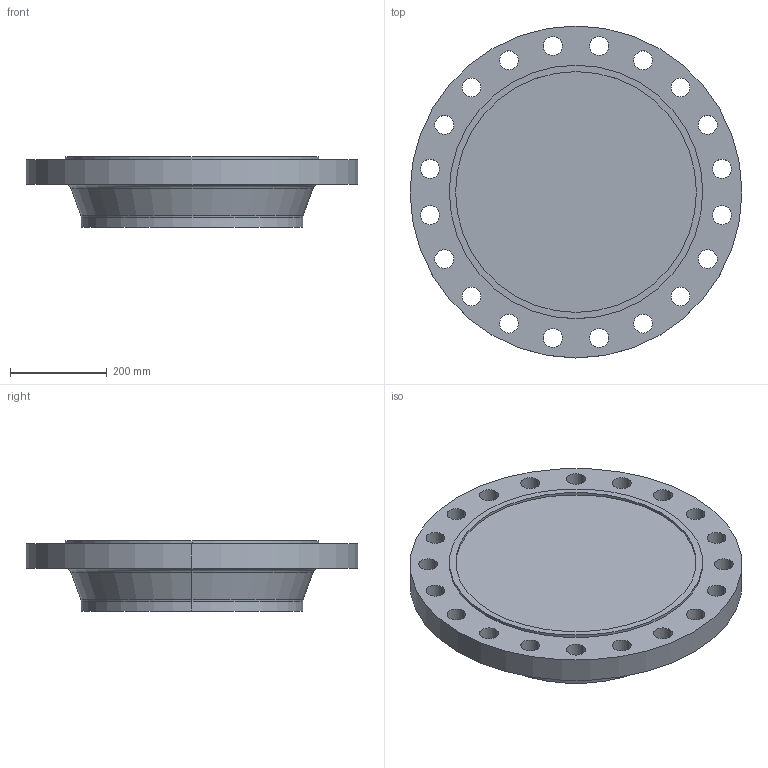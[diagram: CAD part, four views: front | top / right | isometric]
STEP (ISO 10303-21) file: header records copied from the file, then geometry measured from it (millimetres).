
FILE_DESCRIPTION (( 'STEP AP214' ), '1' );
FILE_NAME ('PN40 DN450 Type 21(ii) - Type C Face.STEP', '2018-12-29T04:51:08', ( '' ), ( '' ), 'SwSTEP 2.0', 'SolidWorks 2019', '' );
FILE_SCHEMA (( 'AUTOMOTIVE_DESIGN' ));
Length unit declared in the file: millimetre
Products named in the file (1): PN40 DN450 Type 21(ii) - Type C Face
Bounding box: 685 x 685 x 145 mm (x, y, z)
Volume: 33499132.1 mm3; surface area: 1041854.8 mm2
Topology: 1 solids, 1 shells, 59 faces, 156 edges, 102 vertices
Faces by surface type: cylinder 48, plane 5, torus 4, cone 2
Entity records: 2002 total; most frequent: DIRECTION 382, CARTESIAN_POINT 318, ORIENTED_EDGE 312, AXIS2_PLACEMENT_3D 166, EDGE_CURVE 156, CIRCLE 106, EDGE_LOOP 102, VERTEX_POINT 102
